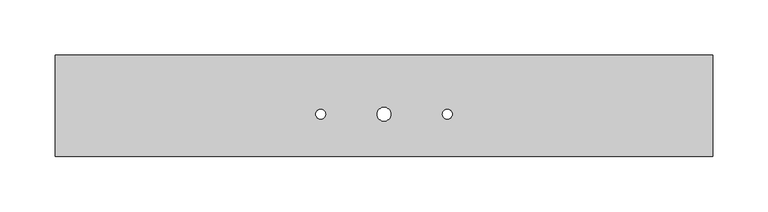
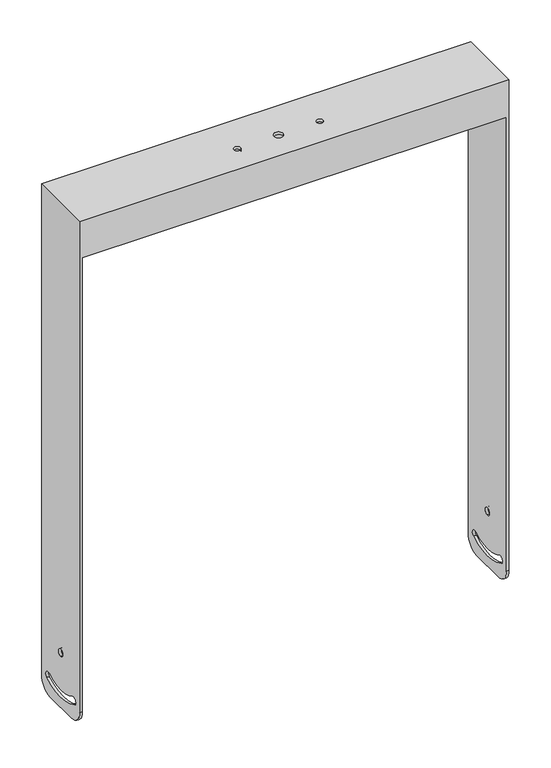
"""IFC4 building model written with IfcOpenShell, lengths in millimetres: proxy geometry, d&b xS-Series 21 Sub Flying Bracket : 21S Sub Flying Bracket."""

from ifc_helpers import new_model, si_unit, frame, origin, place, context, project, spatial, polyline, circle_curve, source, transform, mapped, element, save
from ifc_brep_helpers import plane_surface, cylinder_surface, revolved_surface, advanced_brep


def communication_devices_6301cf38(model_context):
    return source(origin(), model_context, "Body", "AdvancedBrep", [
        advanced_brep(
        [(-294.5, -39.7024689, -71.9884098), (-294.5, -19.7024689, -51.9884098), (-294.5, -19.7024689, 614.0115902), (-294.5, -22.7024689, 614.0115902), (-294.5, -22.7024689, 664.5115902), (-294.5, -108.7024689, 664.5115902), (-294.5, -108.7024689, 614.0115902), (-294.5, -111.7024689, 614.0115902), (-294.5, -111.7024689, -51.9884098), (-294.5, -91.7024689, -71.9884098), (-294.5, -65.7024689, 2.8115902), (-294.5, -65.7024689, 13.2115902), (-294.5, -93.5140876, -39.1386016), (-294.5, -37.8908503, -39.1386016), (-294.5, -32.5720479, -48.0756224), (-294.5, -98.8328899, -48.0756224), (-298.0, -39.7024689, -71.9884098), (-298.0, -91.7024689, -71.9884098), (-298.0, -111.7024689, -51.9884098), (-298.0, -111.7024689, 668.0115902), (-298.0, -19.7024689, 668.0115902), (-298.0, -19.7024689, -51.9884098), (-298.0, -65.7024689, 2.8115902), (-298.0, -65.7024689, 13.2115902), (-298.0, -93.5140876, -39.1386016), (-298.0, -98.8328899, -48.0756224), (-298.0, -32.5720479, -48.0756224), (-298.0, -37.8908503, -39.1386016), (298.0, -19.7024689, 668.0115902), (298.0, -19.7024689, -51.9884098), (294.5, -19.7024689, -51.9884098), (294.5, -19.7024689, 614.0115902), (294.5, -111.7024689, 614.0115902), (294.5, -111.7024689, -51.9884098), (298.0, -111.7024689, -51.9884098), (298.0, -111.7024689, 668.0115902), (-6.25, -73.4475275, 668.0115902), (6.25, -73.4475275, 668.0115902), (-62.0, -73.4475275, 668.0115902), (-53.0, -73.4475275, 668.0115902), (53.0, -73.4475275, 668.0115902), (62.0, -73.4475275, 668.0115902), (294.5, -22.7024689, 664.5115902), (294.5, -108.7024689, 664.5115902), (-6.25, -73.4475275, 664.5115902), (6.25, -73.4475275, 664.5115902), (-62.0, -73.4475275, 664.5115902), (-53.0, -73.4475275, 664.5115902), (53.0, -73.4475275, 664.5115902), (62.0, -73.4475275, 664.5115902), (298.0, -91.7024689, -71.9884098), (298.0, -39.7024689, -71.9884098), (298.0, -65.7024689, 2.8115902), (298.0, -65.7024689, 13.2115902), (298.0, -93.5140876, -39.1386016), (298.0, -37.8908503, -39.1386016), (298.0, -32.5720479, -48.0756224), (298.0, -98.8328899, -48.0756224), (294.5, -22.7024689, 614.0115902), (294.5, -108.7024689, 614.0115902), (294.5, -39.7024689, -71.9884098), (294.5, -91.7024689, -71.9884098), (294.5, -65.7024689, 2.8115902), (294.5, -65.7024689, 13.2115902), (294.5, -93.5140876, -39.1386016), (294.5, -98.8328899, -48.0756224), (294.5, -32.5720479, -48.0756224), (294.5, -37.8908503, -39.1386016)],
        [
            (0, 1, circle_curve(frame((-294.5, -39.7024689, -51.9884098), z_axis=(1.0, 0.0, 0.0), x_axis=(0.0, 0.0, 1.0)), 20.0)),
            (1, 2),
            (2, 3),
            (3, 4),
            (4, 5),
            (5, 6),
            (6, 7),
            (7, 8),
            (8, 9, circle_curve(frame((-294.5, -91.7024689, -51.9884098), z_axis=(1.0, 0.0, 0.0), x_axis=(0.0, 0.0, 1.0)), 20.0)),
            (9, 0),
            (10, 11, circle_curve(frame((-294.5, -65.7024689, 8.0115902), z_axis=(-1.0, 0.0, 0.0), x_axis=(0.0, 0.0, 1.0)), 5.2)),
            (11, 10, circle_curve(frame((-294.5, -65.7024689, 8.0115902), z_axis=(-1.0, 0.0, 0.0), x_axis=(0.0, 0.0, 1.0)), 5.2)),
            (12, 13, circle_curve(frame((-294.5, -65.7024689, 7.5924106), z_axis=(1.0, 0.0, 0.0), x_axis=(0.0, 0.0, 1.0)), 54.3808204)),
            (13, 14, circle_curve(frame((-294.5, -35.2314491, -43.607112), z_axis=(-1.0, 0.0, 0.0), x_axis=(0.0, 0.0, 1.0)), 5.2)),
            (14, 15, circle_curve(frame((-294.5, -65.7024689, 7.5924106), z_axis=(-1.0, 0.0, 0.0), x_axis=(0.0, 0.0, 1.0)), 64.7808204)),
            (15, 12, circle_curve(frame((-294.5, -96.1734888, -43.607112), z_axis=(-1.0, 0.0, 0.0), x_axis=(0.0, 0.0, 1.0)), 5.2)),
            (16, 17),
            (17, 18, circle_curve(frame((-298.0, -91.7024689, -51.9884098), z_axis=(-1.0, 0.0, 0.0), x_axis=(0.0, 0.0, 1.0)), 20.0)),
            (18, 19),
            (19, 20),
            (20, 21),
            (21, 16, circle_curve(frame((-298.0, -39.7024689, -51.9884098), z_axis=(-1.0, 0.0, 0.0), x_axis=(0.0, 0.0, 1.0)), 20.0)),
            (22, 23, circle_curve(frame((-298.0, -65.7024689, 8.0115902), z_axis=(1.0, 0.0, 0.0), x_axis=(0.0, 0.0, 1.0)), 5.2)),
            (23, 22, circle_curve(frame((-298.0, -65.7024689, 8.0115902), z_axis=(1.0, 0.0, 0.0), x_axis=(0.0, 0.0, 1.0)), 5.2)),
            (24, 25, circle_curve(frame((-298.0, -96.1734888, -43.607112), z_axis=(1.0, 0.0, 0.0), x_axis=(0.0, 0.0, 1.0)), 5.2)),
            (25, 26, circle_curve(frame((-298.0, -65.7024689, 7.5924106), z_axis=(1.0, 0.0, 0.0), x_axis=(0.0, 0.0, 1.0)), 64.7808204)),
            (26, 27, circle_curve(frame((-298.0, -35.2314491, -43.607112), z_axis=(1.0, 0.0, 0.0), x_axis=(0.0, 0.0, 1.0)), 5.2)),
            (27, 24, circle_curve(frame((-298.0, -65.7024689, 7.5924106), z_axis=(-1.0, 0.0, 0.0), x_axis=(0.0, 0.0, 1.0)), 54.3808204)),
            (0, 16),
            (21, 1),
            (20, 28),
            (28, 29),
            (29, 30),
            (30, 31),
            (31, 2),
            (18, 8),
            (7, 32),
            (32, 33),
            (33, 34),
            (34, 35),
            (35, 19),
            (17, 9),
            (10, 22),
            (23, 11),
            (12, 24),
            (27, 13),
            (26, 14),
            (25, 15),
            (35, 28),
            (36, 37, circle_curve(frame((0.0, -73.4475275, 668.0115902), z_axis=(0.0, 0.0, -1.0), x_axis=(1.0, 0.0, 0.0)), 6.25)),
            (37, 36, circle_curve(frame((0.0, -73.4475275, 668.0115902), z_axis=(0.0, 0.0, -1.0), x_axis=(1.0, 0.0, 0.0)), 6.25)),
            (38, 39, circle_curve(frame((-57.5, -73.4475275, 668.0115902), z_axis=(0.0, 0.0, -1.0), x_axis=(1.0, 0.0, 0.0)), 4.5)),
            (39, 38, circle_curve(frame((-57.5, -73.4475275, 668.0115902), z_axis=(0.0, 0.0, -1.0), x_axis=(1.0, 0.0, 0.0)), 4.5)),
            (40, 41, circle_curve(frame((57.5, -73.4475275, 668.0115902), z_axis=(0.0, 0.0, -1.0), x_axis=(1.0, 0.0, 0.0)), 4.5)),
            (41, 40, circle_curve(frame((57.5, -73.4475275, 668.0115902), z_axis=(0.0, 0.0, -1.0), x_axis=(1.0, 0.0, 0.0)), 4.5)),
            (4, 42),
            (42, 43),
            (43, 5),
            (44, 45, circle_curve(frame((0.0, -73.4475275, 664.5115902), z_axis=(0.0, 0.0, 1.0), x_axis=(1.0, 0.0, 0.0)), 6.25)),
            (45, 44, circle_curve(frame((0.0, -73.4475275, 664.5115902), z_axis=(0.0, 0.0, 1.0), x_axis=(1.0, 0.0, 0.0)), 6.25)),
            (46, 47, circle_curve(frame((-57.5, -73.4475275, 664.5115902), z_axis=(0.0, 0.0, 1.0), x_axis=(1.0, 0.0, 0.0)), 4.5)),
            (47, 46, circle_curve(frame((-57.5, -73.4475275, 664.5115902), z_axis=(0.0, 0.0, 1.0), x_axis=(1.0, 0.0, 0.0)), 4.5)),
            (48, 49, circle_curve(frame((57.5, -73.4475275, 664.5115902), z_axis=(0.0, 0.0, 1.0), x_axis=(1.0, 0.0, 0.0)), 4.5)),
            (49, 48, circle_curve(frame((57.5, -73.4475275, 664.5115902), z_axis=(0.0, 0.0, 1.0), x_axis=(1.0, 0.0, 0.0)), 4.5)),
            (34, 50, circle_curve(frame((298.0, -91.7024689, -51.9884098), z_axis=(1.0, 0.0, 0.0), x_axis=(0.0, 0.0, 1.0)), 20.0)),
            (50, 51),
            (51, 29, circle_curve(frame((298.0, -39.7024689, -51.9884098), z_axis=(1.0, 0.0, 0.0), x_axis=(0.0, 0.0, 1.0)), 20.0)),
            (52, 53, circle_curve(frame((298.0, -65.7024689, 8.0115902), z_axis=(-1.0, 0.0, 0.0), x_axis=(0.0, 0.0, 1.0)), 5.2)),
            (53, 52, circle_curve(frame((298.0, -65.7024689, 8.0115902), z_axis=(-1.0, 0.0, 0.0), x_axis=(0.0, 0.0, 1.0)), 5.2)),
            (54, 55, circle_curve(frame((298.0, -65.7024689, 7.5924106), z_axis=(1.0, 0.0, 0.0), x_axis=(0.0, 0.0, 1.0)), 54.3808204)),
            (55, 56, circle_curve(frame((298.0, -35.2314491, -43.607112), z_axis=(-1.0, 0.0, 0.0), x_axis=(0.0, 0.0, 1.0)), 5.2)),
            (56, 57, circle_curve(frame((298.0, -65.7024689, 7.5924106), z_axis=(-1.0, 0.0, 0.0), x_axis=(0.0, 0.0, 1.0)), 64.7808204)),
            (57, 54, circle_curve(frame((298.0, -96.1734888, -43.607112), z_axis=(-1.0, 0.0, 0.0), x_axis=(0.0, 0.0, 1.0)), 5.2)),
            (36, 44),
            (45, 37),
            (38, 46),
            (47, 39),
            (40, 48),
            (49, 41),
            (3, 58),
            (58, 42),
            (31, 58),
            (6, 59),
            (59, 32),
            (43, 59),
            (60, 61),
            (61, 33, circle_curve(frame((294.5, -91.7024689, -51.9884098), z_axis=(-1.0, 0.0, 0.0), x_axis=(0.0, 0.0, 1.0)), 20.0)),
            (30, 60, circle_curve(frame((294.5, -39.7024689, -51.9884098), z_axis=(-1.0, 0.0, 0.0), x_axis=(0.0, 0.0, 1.0)), 20.0)),
            (62, 63, circle_curve(frame((294.5, -65.7024689, 8.0115902), z_axis=(1.0, 0.0, 0.0), x_axis=(0.0, 0.0, 1.0)), 5.2)),
            (63, 62, circle_curve(frame((294.5, -65.7024689, 8.0115902), z_axis=(1.0, 0.0, 0.0), x_axis=(0.0, 0.0, 1.0)), 5.2)),
            (64, 65, circle_curve(frame((294.5, -96.1734888, -43.607112), z_axis=(1.0, 0.0, 0.0), x_axis=(0.0, 0.0, 1.0)), 5.2)),
            (65, 66, circle_curve(frame((294.5, -65.7024689, 7.5924106), z_axis=(1.0, 0.0, 0.0), x_axis=(0.0, 0.0, 1.0)), 64.7808204)),
            (66, 67, circle_curve(frame((294.5, -35.2314491, -43.607112), z_axis=(1.0, 0.0, 0.0), x_axis=(0.0, 0.0, 1.0)), 5.2)),
            (67, 64, circle_curve(frame((294.5, -65.7024689, 7.5924106), z_axis=(-1.0, 0.0, 0.0), x_axis=(0.0, 0.0, 1.0)), 54.3808204)),
            (51, 60),
            (61, 50),
            (52, 62),
            (63, 53),
            (54, 64),
            (67, 55),
            (66, 56),
            (65, 57),
        ],
        [
            plane_surface(frame((-294.5, -39.7024689, -31.9884098), z_axis=(1.0, 0.0, 0.0), x_axis=(0.0, -1.0, 0.0))),
            plane_surface(frame((-298.0, -39.7024689, -31.9884098), z_axis=(-1.0, 0.0, 0.0), x_axis=(0.0, 1.0, 0.0))),
            cylinder_surface(frame((-298.0, -39.7024689, -51.9884098), z_axis=(1.0, 0.0, 0.0), x_axis=(0.0, 0.0, 1.0)), 20.0),
            plane_surface(frame((-294.5, -19.7024689, -51.9884098), z_axis=(0.0, 1.0, 0.0), x_axis=(-1.0, 0.0, 0.0))),
            plane_surface(frame((-294.5, -111.7024689, 664.5115902), z_axis=(0.0, -1.0, 0.0), x_axis=(-1.0, 0.0, 0.0))),
            cylinder_surface(frame((-298.0, -91.7024689, -51.9884098), z_axis=(1.0, 0.0, 0.0), x_axis=(0.0, 0.0, 1.0)), 20.0),
            plane_surface(frame((-294.5, -91.7024689, -71.9884098), z_axis=(0.0, 0.0, -1.0), x_axis=(-1.0, 0.0, 0.0))),
            revolved_surface(polyline([(-298.0, -65.7024689, 13.2115902), (-294.5, -65.7024689, 13.2115902)]), (0.0, -65.7024689, 8.0115902), (-1.0, 0.0, 0.0)),
            cylinder_surface(frame((0.0, -65.7024689, 7.5924106), z_axis=(1.0, 0.0, 0.0), x_axis=(0.0, 0.0, 1.0)), 54.3808204),
            revolved_surface(polyline([(-298.0, -35.2314491, -38.407112), (-294.5, -35.2314491, -38.407112)]), (0.0, -35.2314491, -43.607112), (-1.0, 0.0, 0.0)),
            revolved_surface(polyline([(-298.0, -65.7024689, 72.37323099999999), (-294.5, -65.7024689, 72.37323099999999)]), (0.0, -65.7024689, 7.5924106), (-1.0, 0.0, 0.0)),
            revolved_surface(polyline([(-298.0, -96.1734888, -38.407112), (-294.5, -96.1734888, -38.407112)]), (0.0, -96.1734888, -43.607112), (-1.0, 0.0, 0.0)),
            plane_surface(frame((-557.0, -19.7024689, 668.0115902), z_axis=(0.0, 0.0, 1.0), x_axis=(-1.0, 0.0, 0.0))),
            plane_surface(frame((-557.0, -19.7024689, 664.5115902), z_axis=(0.0, 0.0, -1.0), x_axis=(1.0, 0.0, 0.0))),
            plane_surface(frame((298.0, -111.7024689, 668.0115902), z_axis=(1.0, 0.0, 0.0), x_axis=(0.0, 0.0, -1.0))),
            revolved_surface(polyline([(6.25, -73.4475275, 664.5115902), (6.25, -73.4475275, 668.0115902)]), (0.0, -73.4475275, 63.0115902), (0.0, 0.0, -1.0)),
            revolved_surface(polyline([(-53.0, -73.4475275, 664.5115902), (-53.0, -73.4475275, 668.0115902)]), (-57.5, -73.4475275, 63.0115902), (0.0, 0.0, -1.0)),
            revolved_surface(polyline([(62.0, -73.4475275, 664.5115902), (62.0, -73.4475275, 668.0115902)]), (57.5, -73.4475275, 63.0115902), (0.0, 0.0, -1.0)),
            plane_surface(frame((294.5, -22.7024689, 664.5115902), z_axis=(0.0, -1.0, 0.0), x_axis=(-1.0, 0.0, 0.0))),
            plane_surface(frame((294.5, -22.7024689, 614.0115902), z_axis=(0.0, 0.0, -1.0), x_axis=(-1.0, 0.0, 0.0))),
            plane_surface(frame((294.5, -111.7024689, 614.0115902), z_axis=(0.0, 0.0, -1.0), x_axis=(-1.0, 0.0, 0.0))),
            plane_surface(frame((294.5, -108.7024689, 614.0115902), z_axis=(0.0, 1.0, 0.0), x_axis=(-1.0, 0.0, 0.0))),
            plane_surface(frame((294.5, -39.7024689, -31.9884098), z_axis=(-1.0, 0.0, 0.0), x_axis=(0.0, 1.0, 0.0))),
            cylinder_surface(frame((294.5, -39.7024689, -51.9884098), z_axis=(1.0, 0.0, 0.0), x_axis=(0.0, 0.0, 1.0)), 20.0),
            cylinder_surface(frame((294.5, -91.7024689, -51.9884098), z_axis=(1.0, 0.0, 0.0), x_axis=(0.0, 0.0, 1.0)), 20.0),
            plane_surface(frame((298.0, -91.7024689, -71.9884098), z_axis=(0.0, 0.0, -1.0), x_axis=(-1.0, 0.0, 0.0))),
            revolved_surface(polyline([(294.5, -65.7024689, 13.2115902), (298.0, -65.7024689, 13.2115902)]), (0.0, -65.7024689, 8.0115902), (-1.0, 0.0, 0.0)),
            revolved_surface(polyline([(294.5, -35.2314491, -38.407112), (298.0, -35.2314491, -38.407112)]), (0.0, -35.2314491, -43.607112), (-1.0, 0.0, 0.0)),
            revolved_surface(polyline([(294.5, -65.7024689, 72.37323099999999), (298.0, -65.7024689, 72.37323099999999)]), (0.0, -65.7024689, 7.5924106), (-1.0, 0.0, 0.0)),
            revolved_surface(polyline([(294.5, -96.1734888, -38.407112), (298.0, -96.1734888, -38.407112)]), (0.0, -96.1734888, -43.607112), (-1.0, 0.0, 0.0)),
        ],
        [
            (0, [[1, 2, 3, 4, 5, 6, 7, 8, 9, 10], [11, 12], [13, 14, 15, 16]]),
            (1, [[17, 18, 19, 20, 21, 22], [23, 24], [25, 26, 27, 28]]),
            (2, [[-1, 29, -22, 30]]),
            (3, [[-30, -21, 31, 32, 33, 34, 35, -2]]),
            (4, [[36, -8, 37, 38, 39, 40, 41, -19]]),
            (5, [[-9, -36, -18, 42]]),
            (6, [[-10, -42, -17, -29]]),
            (7, [[-11, 43, -24, 44]]),
            (7, [[-12, -44, -23, -43]]),
            (8, [[-13, 45, -28, 46]]),
            (9, [[-14, -46, -27, 47]]),
            (10, [[-15, -47, -26, 48]]),
            (11, [[-16, -48, -25, -45]]),
            (12, [[-31, -20, -41, 49], [50, 51], [52, 53], [54, 55]]),
            (13, [[-5, 56, 57, 58], [59, 60], [61, 62], [63, 64]]),
            (14, [[-32, -49, -40, 65, 66, 67], [68, 69], [70, 71, 72, 73]]),
            (15, [[-50, 74, -60, 75]]),
            (15, [[-51, -75, -59, -74]]),
            (16, [[-52, 76, -62, 77]]),
            (16, [[-53, -77, -61, -76]]),
            (17, [[-54, 78, -64, 79]]),
            (17, [[-55, -79, -63, -78]]),
            (18, [[80, 81, -56, -4]]),
            (19, [[-80, -3, -35, 82]]),
            (20, [[-37, -7, 83, 84]]),
            (21, [[-83, -6, -58, 85]]),
            (22, [[86, 87, -38, -84, -85, -57, -81, -82, -34, 88], [89, 90], [91, 92, 93, 94]]),
            (23, [[-67, 95, -88, -33]]),
            (24, [[-65, -39, -87, 96]]),
            (25, [[-66, -96, -86, -95]]),
            (26, [[-68, 97, -90, 98]]),
            (26, [[-69, -98, -89, -97]]),
            (8, [[-70, 99, -94, 100]]),
            (27, [[-71, -100, -93, 101]]),
            (28, [[-72, -101, -92, 102]]),
            (29, [[-73, -102, -91, -99]]),
        ],
    ),
    ])


if __name__ == "__main__":
    model = new_model("IFC4")
    model_context = context("Model", 3, world=origin())
    ifc_project = project(units=[si_unit("LENGTHUNIT", "METRE", prefix="MILLI")], contexts=[model_context])
    site = spatial("IfcSite", under=ifc_project)
    building = spatial("IfcBuilding", under=site)
    placement = place(None, origin())
    communication_devices_shape = communication_devices_6301cf38(model_context)
    element("IfcBuildingElementProxy", 1, Name="d&b xS-Series 21 Sub Flying Bracket : 21S Sub Flying Bracket", ObjectType="d&b xS-Series 21 Sub Flying Bracket : 21S Sub Flying Bracket", at=placement, inside=building, context=model_context, shape_type="MappedRepresentation", body=[
        mapped(communication_devices_shape, transform((0.0, 0.0, 0.0), x_axis=(1.0, 0.0, 0.0), y_axis=(0.0, 1.0, 0.0), z_axis=(0.0, 0.0, 1.0))),
    ])
    save(model, "model.ifc")
